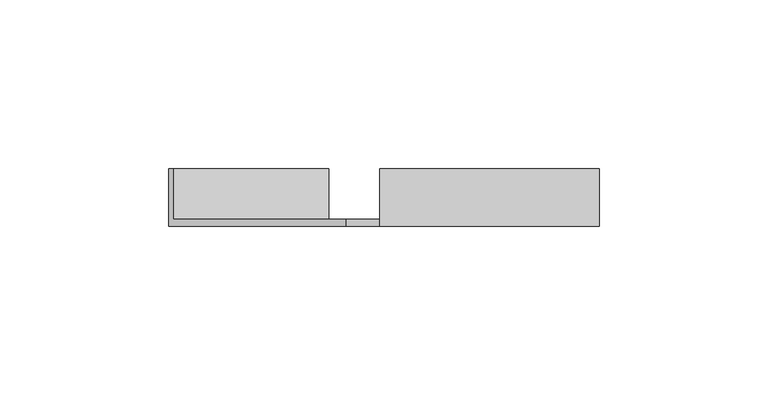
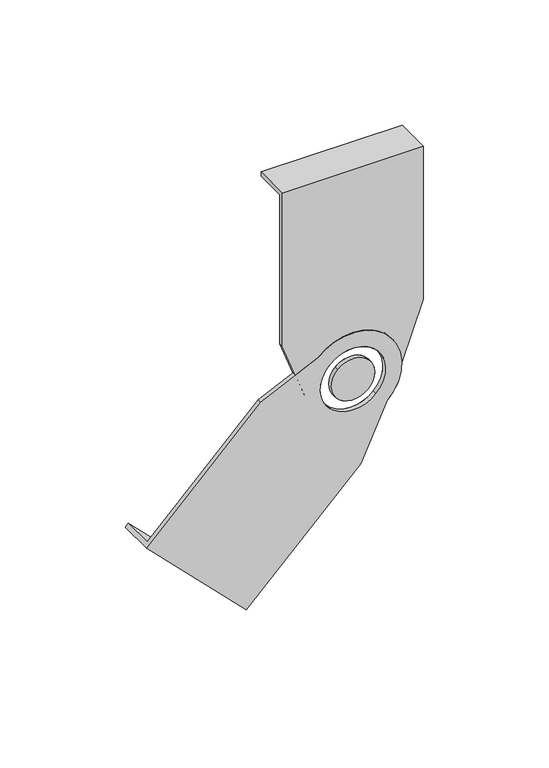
"""IFC4 building model written with IfcOpenShell, lengths in millimetres: cable carrier fitting geometry, BAKS_LD_TEE_Articulated connector attachable_LDD : LDDC_H45."""

from ifc_helpers import new_model, si_unit, frame, origin, place, context, project, spatial, polyline, circle_curve, source, transform, mapped, element, save
from ifc_brep_helpers import plane_surface, cylinder_surface, revolved_surface, advanced_brep


def cable_carrier_fitting_c25b36c4(model_context):
    return source(origin(), model_context, "Body", "AdvancedBrep", [
        advanced_brep(
        [(3.5355339, -2.0, -42.4264069), (15.9099026, -2.0, -15.9099026), (-15.9099026, -2.0, 15.9099026), (-42.4264069, -2.0, 3.5355339), (-95.1058621, -2.0, -49.1439213), (-49.1439213, -2.0, -95.1058621), (-10.6066017, -2.0, 10.6066017), (10.6066017, -2.0, -10.6066017), (-93.6916485, 0.0, -47.7297077), (-42.4264069, 0.0, 3.5355339), (-15.9099026, 0.0, 15.9099026), (15.9099026, 0.0, -15.9099026), (3.5355339, 0.0, -42.4264069), (-47.7297077, 0.0, -93.6916485), (10.6066017, 0.0, -10.6066017), (-10.6066017, 0.0, 10.6066017), (-49.1439213, 15.0, -95.1058621), (-47.7297077, 15.0, -93.6916485), (-93.6916485, 15.0, -47.7297077), (-95.1058621, 15.0, -49.1439213)],
        [
            (0, 1),
            (1, 2, circle_curve(frame((0.0, -2.0, 0.0), z_axis=(0.0, -1.0, 0.0), x_axis=(-0.7071067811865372, 0.0, 0.7071067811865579)), 22.5)),
            (2, 3),
            (3, 4),
            (4, 5),
            (5, 0),
            (6, 7, circle_curve(frame((0.0, -2.0, 0.0), z_axis=(0.0, 1.0, 0.0), x_axis=(-0.7071067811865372, 0.0, 0.7071067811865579)), 15.0)),
            (7, 6, circle_curve(frame((0.0, -2.0, 0.0), z_axis=(0.0, 1.0, 0.0), x_axis=(-0.7071067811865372, 0.0, 0.7071067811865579)), 15.0)),
            (8, 9),
            (9, 10),
            (10, 11, circle_curve(frame((0.0, 0.0, 0.0), z_axis=(0.0, 1.0, 0.0), x_axis=(-0.7071067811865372, 0.0, 0.7071067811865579)), 22.5)),
            (11, 12),
            (12, 13),
            (13, 8),
            (14, 15, circle_curve(frame((0.0, 0.0, 0.0), z_axis=(0.0, -1.0, 0.0), x_axis=(-0.7071067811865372, 0.0, 0.7071067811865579)), 15.0)),
            (15, 14, circle_curve(frame((0.0, 0.0, 0.0), z_axis=(0.0, -1.0, 0.0), x_axis=(-0.7071067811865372, 0.0, 0.7071067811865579)), 15.0)),
            (5, 16),
            (16, 17),
            (17, 13),
            (12, 0),
            (11, 1),
            (10, 2),
            (9, 3),
            (8, 18),
            (18, 19),
            (19, 4),
            (6, 15),
            (14, 7),
            (17, 18),
            (19, 16),
        ],
        [
            plane_surface(frame((-47.7297077, -2.0, -93.6916485), z_axis=(0.0, -1.0, 0.0), x_axis=(0.7071067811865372, 0.0, -0.7071067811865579))),
            plane_surface(frame((-47.7297077, 0.0, -93.6916485), z_axis=(0.0, 1.0, 0.0), x_axis=(-0.7071067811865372, 0.0, 0.7071067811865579))),
            plane_surface(frame((-47.7297077, -2.0, -93.6916485), z_axis=(0.707106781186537, 0.0, -0.7071067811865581), x_axis=(0.0, 1.0, 0.0))),
            plane_surface(frame((3.5355339, -2.0, -42.4264069), z_axis=(0.9061831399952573, 0.0, -0.4228854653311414), x_axis=(0.0, 1.0, 0.0))),
            cylinder_surface(frame((0.0, 0.0, 0.0), z_axis=(0.0, -1.0, 0.0), x_axis=(-0.7071067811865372, 0.0, 0.7071067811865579)), 22.5),
            plane_surface(frame((-15.9099026, -2.0, 15.9099026), z_axis=(-0.42288546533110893, 0.0, 0.9061831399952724), x_axis=(0.0, 1.0, 0.0))),
            plane_surface(frame((-42.4264069, -2.0, 3.5355339), z_axis=(-0.7071067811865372, 0.0, 0.7071067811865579), x_axis=(0.0, 1.0, 0.0))),
            revolved_surface(polyline([(-10.606601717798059, -2.0, 10.606601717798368), (-10.606601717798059, 0.0, 10.606601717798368)]), (0.0, 0.0, 0.0), (0.0, -1.0, 0.0)),
            plane_surface(frame((-47.7297077, -2.0, -93.6916485), z_axis=(0.7071067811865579, 0.0, 0.7071067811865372), x_axis=(0.7071067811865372, 0.0, -0.7071067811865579))),
            plane_surface(frame((-49.1439213, -2.0, -95.1058621), z_axis=(-0.7071067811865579, 0.0, -0.7071067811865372), x_axis=(-0.7071067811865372, 0.0, 0.7071067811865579))),
            plane_surface(frame((-47.7297077, 15.0, -93.6916485), z_axis=(0.0, 1.0, 0.0), x_axis=(-0.7071067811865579, 0.0, -0.7071067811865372))),
        ],
        [
            (0, [[1, 2, 3, 4, 5, 6], [7, 8]]),
            (1, [[9, 10, 11, 12, 13, 14], [15, 16]]),
            (2, [[-6, 17, 18, 19, -13, 20]]),
            (3, [[-1, -20, -12, 21]]),
            (4, [[-2, -21, -11, 22]]),
            (5, [[-3, -22, -10, 23]]),
            (6, [[-4, -23, -9, 24, 25, 26]]),
            (7, [[27, -15, 28, -7]]),
            (7, [[-27, -8, -28, -16]]),
            (8, [[29, -24, -14, -19]]),
            (9, [[-26, 30, -17, -5]]),
            (10, [[-29, -18, -30, -25]]),
        ],
    ),
        advanced_brep(
        [(-7.0710678, -2.0, 7.0710678), (7.0710678, -2.0, -7.0710678), (7.0710678, 0.0, -7.0710678), (-7.0710678, 0.0, 7.0710678)],
        [
            (0, 1, circle_curve(frame((0.0, -2.0, 0.0), z_axis=(0.0, -1.0, 0.0), x_axis=(-0.7071067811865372, 0.0, 0.7071067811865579)), 10.0)),
            (1, 0, circle_curve(frame((0.0, -2.0, 0.0), z_axis=(0.0, -1.0, 0.0), x_axis=(-0.7071067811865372, 0.0, 0.7071067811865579)), 10.0)),
            (2, 3, circle_curve(frame((0.0, 0.0, 0.0), z_axis=(0.0, 1.0, 0.0), x_axis=(-0.7071067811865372, 0.0, 0.7071067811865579)), 10.0)),
            (3, 2, circle_curve(frame((0.0, 0.0, 0.0), z_axis=(0.0, 1.0, 0.0), x_axis=(-0.7071067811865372, 0.0, 0.7071067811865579)), 10.0)),
            (0, 3),
            (2, 1),
        ],
        [
            plane_surface(frame((-47.7297077, -2.0, -93.6916485), z_axis=(0.0, -1.0, 0.0), x_axis=(0.7071067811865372, 0.0, -0.7071067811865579))),
            plane_surface(frame((-47.7297077, 0.0, -93.6916485), z_axis=(0.0, 1.0, 0.0), x_axis=(-0.7071067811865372, 0.0, 0.7071067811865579))),
            cylinder_surface(frame((0.0, 0.0, 0.0), z_axis=(0.0, 1.0, 0.0), x_axis=(-0.7071067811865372, 0.0, 0.7071067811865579)), 10.0),
        ],
        [
            (0, [[1, 2]]),
            (1, [[3, 4]]),
            (2, [[5, -3, 6, -1]]),
            (2, [[-5, -2, -6, -4]]),
        ],
    ),
        advanced_brep(
        [(-32.5, -2.0, 27.5), (-22.5, -2.0, 0.0), (22.5, -2.0, 0.0), (32.5, -2.0, 27.5), (32.5, -2.0, 102.0), (-32.5, -2.0, 102.0), (15.0, -2.0, 0.0), (-15.0, -2.0, 0.0), (32.5, 0.0, 100.0), (32.5, 0.0, 27.5), (22.5, 0.0, 0.0), (-22.5, 0.0, 0.0), (-32.5, 0.0, 27.5), (-32.5, 0.0, 100.0), (-15.0, 0.0, 0.0), (15.0, 0.0, 0.0), (-32.5, 15.0, 102.0), (-32.5, 15.0, 100.0), (32.5, 15.0, 100.0), (32.5, 15.0, 102.0)],
        [
            (0, 1),
            (1, 2, circle_curve(frame((0.0, -2.0, 0.0), z_axis=(0.0, -1.0, 0.0), x_axis=(1.0, 0.0, 0.0)), 22.5)),
            (2, 3),
            (3, 4),
            (4, 5),
            (5, 0),
            (6, 7, circle_curve(frame((0.0, -2.0, 0.0), z_axis=(0.0, 1.0, 0.0), x_axis=(1.0, 0.0, 0.0)), 15.0)),
            (7, 6, circle_curve(frame((0.0, -2.0, 0.0), z_axis=(0.0, 1.0, 0.0), x_axis=(1.0, 0.0, 0.0)), 15.0)),
            (8, 9),
            (9, 10),
            (10, 11, circle_curve(frame((0.0, 0.0, 0.0), z_axis=(0.0, 1.0, 0.0), x_axis=(1.0, 0.0, 0.0)), 22.5)),
            (11, 12),
            (12, 13),
            (13, 8),
            (14, 15, circle_curve(frame((0.0, 0.0, 0.0), z_axis=(0.0, -1.0, 0.0), x_axis=(1.0, 0.0, 0.0)), 15.0)),
            (15, 14, circle_curve(frame((0.0, 0.0, 0.0), z_axis=(0.0, -1.0, 0.0), x_axis=(1.0, 0.0, 0.0)), 15.0)),
            (5, 16),
            (16, 17),
            (17, 13),
            (12, 0),
            (11, 1),
            (10, 2),
            (9, 3),
            (8, 18),
            (18, 19),
            (19, 4),
            (6, 15),
            (14, 7),
            (17, 18),
            (19, 16),
        ],
        [
            plane_surface(frame((-32.5, -2.0, 100.0), z_axis=(0.0, -1.0, 0.0), x_axis=(-1.0, 0.0, 0.0))),
            plane_surface(frame((-32.5, 0.0, 100.0), z_axis=(0.0, 1.0, 0.0), x_axis=(1.0, 0.0, 0.0))),
            plane_surface(frame((-32.5, -2.0, 100.0), z_axis=(-1.0, 0.0, 0.0), x_axis=(0.0, 1.0, 0.0))),
            plane_surface(frame((-32.5, -2.0, 27.5), z_axis=(-0.9397934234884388, 0.0, -0.3417430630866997), x_axis=(0.0, 1.0, 0.0))),
            cylinder_surface(frame((0.0, 0.0, 0.0), z_axis=(0.0, -1.0, 0.0), x_axis=(1.0, 0.0, 0.0)), 22.5),
            plane_surface(frame((22.5, -2.0, 0.0), z_axis=(0.9397934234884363, 0.0, -0.34174306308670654), x_axis=(0.0, 1.0, 0.0))),
            plane_surface(frame((32.5, -2.0, 27.5), z_axis=(1.0, 0.0, 0.0), x_axis=(0.0, 1.0, 0.0))),
            revolved_surface(polyline([(15.0, -2.0, 0.0), (15.0, 0.0, 0.0)]), (0.0, 0.0, 0.0), (0.0, -1.0, 0.0)),
            plane_surface(frame((-32.5, -2.0, 100.0), z_axis=(0.0, 0.0, -1.0), x_axis=(-1.0, 0.0, 0.0))),
            plane_surface(frame((-32.5, -2.0, 102.0), z_axis=(0.0, 0.0, 1.0), x_axis=(1.0, 0.0, 0.0))),
            plane_surface(frame((-32.5, 15.0, 100.0), z_axis=(0.0, 1.0, 0.0), x_axis=(0.0, 0.0, 1.0))),
        ],
        [
            (0, [[1, 2, 3, 4, 5, 6], [7, 8]]),
            (1, [[9, 10, 11, 12, 13, 14], [15, 16]]),
            (2, [[-6, 17, 18, 19, -13, 20]]),
            (3, [[-1, -20, -12, 21]]),
            (4, [[-2, -21, -11, 22]]),
            (5, [[-3, -22, -10, 23]]),
            (6, [[-4, -23, -9, 24, 25, 26]]),
            (7, [[27, -15, 28, -7]]),
            (7, [[-27, -8, -28, -16]]),
            (8, [[29, -24, -14, -19]]),
            (9, [[-26, 30, -17, -5]]),
            (10, [[-29, -18, -30, -25]]),
        ],
    ),
        advanced_brep(
        [(10.0, -2.0, 0.0), (-10.0, -2.0, 0.0), (-10.0, 0.0, 0.0), (10.0, 0.0, 0.0)],
        [
            (0, 1, circle_curve(frame((0.0, -2.0, 0.0), z_axis=(0.0, -1.0, 0.0), x_axis=(1.0, 0.0, 0.0)), 10.0)),
            (1, 0, circle_curve(frame((0.0, -2.0, 0.0), z_axis=(0.0, -1.0, 0.0), x_axis=(1.0, 0.0, 0.0)), 10.0)),
            (2, 3, circle_curve(frame((0.0, 0.0, 0.0), z_axis=(0.0, 1.0, 0.0), x_axis=(1.0, 0.0, 0.0)), 10.0)),
            (3, 2, circle_curve(frame((0.0, 0.0, 0.0), z_axis=(0.0, 1.0, 0.0), x_axis=(1.0, 0.0, 0.0)), 10.0)),
            (0, 3),
            (2, 1),
        ],
        [
            plane_surface(frame((-32.5, -2.0, 100.0), z_axis=(0.0, -1.0, 0.0), x_axis=(-1.0, 0.0, 0.0))),
            plane_surface(frame((-32.5, 0.0, 100.0), z_axis=(0.0, 1.0, 0.0), x_axis=(1.0, 0.0, 0.0))),
            cylinder_surface(frame((0.0, 0.0, 0.0), z_axis=(0.0, 1.0, 0.0), x_axis=(1.0, 0.0, 0.0)), 10.0),
        ],
        [
            (0, [[1, 2]]),
            (1, [[3, 4]]),
            (2, [[5, -3, 6, -1]]),
            (2, [[-5, -2, -6, -4]]),
        ],
    ),
    ])


if __name__ == "__main__":
    model = new_model("IFC4")
    model_context = context("Model", 3, world=origin())
    ifc_project = project(units=[si_unit("LENGTHUNIT", "METRE", prefix="MILLI")], contexts=[model_context])
    site = spatial("IfcSite", under=ifc_project)
    building = spatial("IfcBuilding", under=site)
    placement = place(None, origin())
    cable_carrier_fitting_shape = cable_carrier_fitting_c25b36c4(model_context)
    element("IfcCableCarrierFitting", 1, ObjectType="BAKS_LD_TEE_Articulated connector attachable_LDD : LDDC_H45", at=placement, inside=building, context=model_context, shape_type="MappedRepresentation", body=[
        mapped(cable_carrier_fitting_shape, transform((0.0, 0.0, 0.0), x_axis=(1.0, 0.0, 0.0), y_axis=(0.0, 1.0, 0.0), z_axis=(0.0, 0.0, 1.0))),
    ])
    save(model, "model.ifc")
